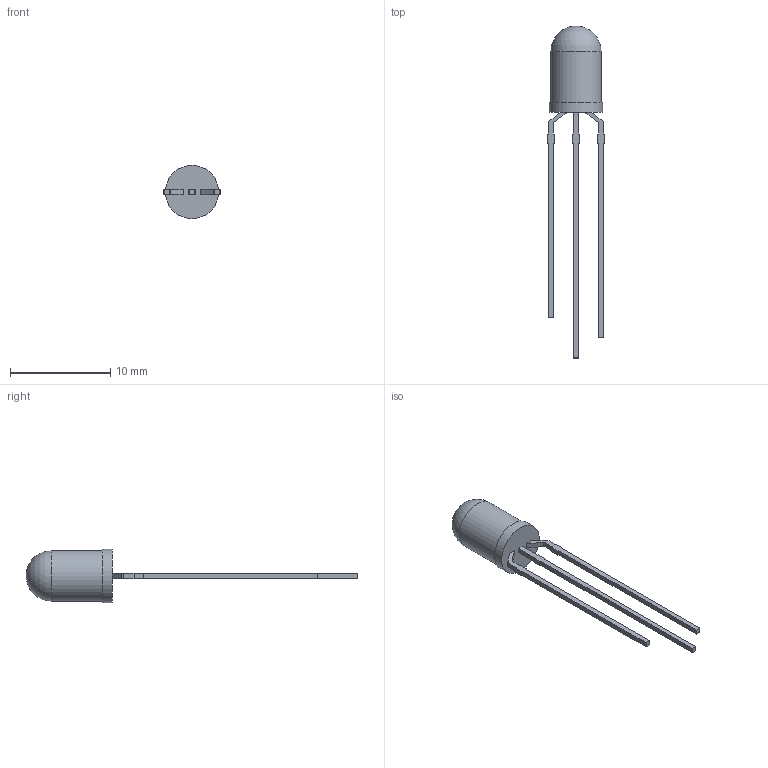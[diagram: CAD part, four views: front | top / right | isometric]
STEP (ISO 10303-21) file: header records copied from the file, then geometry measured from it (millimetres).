
FILE_DESCRIPTION(/* description */ (''),/* implementation_level */ '2;1');
FILE_NAME(/* name */ 'dual-color led 3-pin.step',/* time_stamp */ '2026-10-09T16:46:49+07:00',/* author */ (''),/* organization */ (''),/* preprocessor_version */ 'ST-DEVELOPER v20.2',/* originating_system */ 'Autodesk Translation Framework v15.15.0.0',/* authorisation */ '');
FILE_SCHEMA (('AUTOMOTIVE_DESIGN { 1 0 10303 214 3 1 1 }'));
Length unit declared in the file: millimetre
Products named in the file (3): 2026-10-09-16-45-09-468; 2026-10-09-16-05-59-906; 2026-10-09-14-17-57-625
Assembly tree (2 placements, depth 2):
  2026-10-09-16-45-09-468
    2026-10-09-16-05-59-906
    2026-10-09-14-17-57-625
Bounding box: 5.78 x 33.1 x 5.3 mm (x, y, z)
Volume: 172.2 mm3; surface area: 300.6 mm2
Topology: 4 solids, 4 shells, 67 faces, 177 edges, 118 vertices
Faces by surface type: plane 48, cylinder 18, sphere 1
Full cylindrical faces by diameter (mm): 5 x1, 5.3 x1
Entity records: 2159 total; most frequent: CARTESIAN_POINT 366, DIRECTION 358, ORIENTED_EDGE 352, EDGE_CURVE 176, LINE 138, VECTOR 138, VERTEX_POINT 118, AXIS2_PLACEMENT_3D 110
